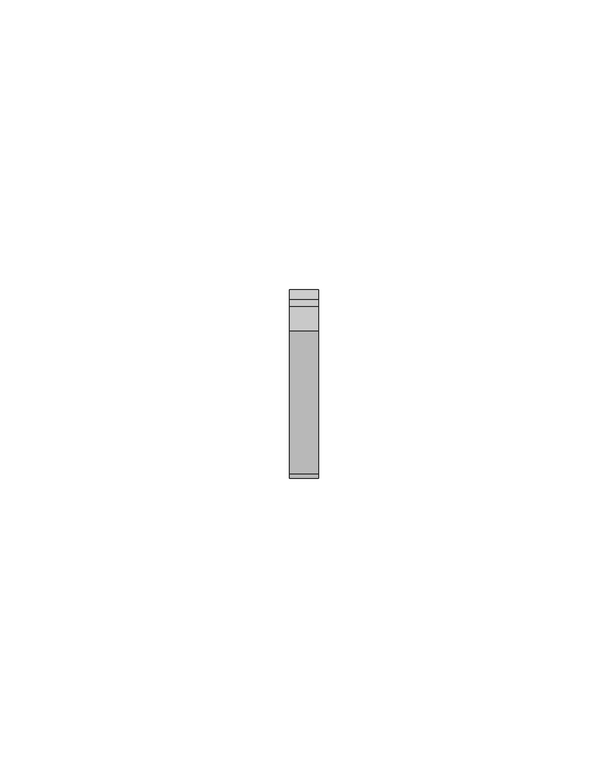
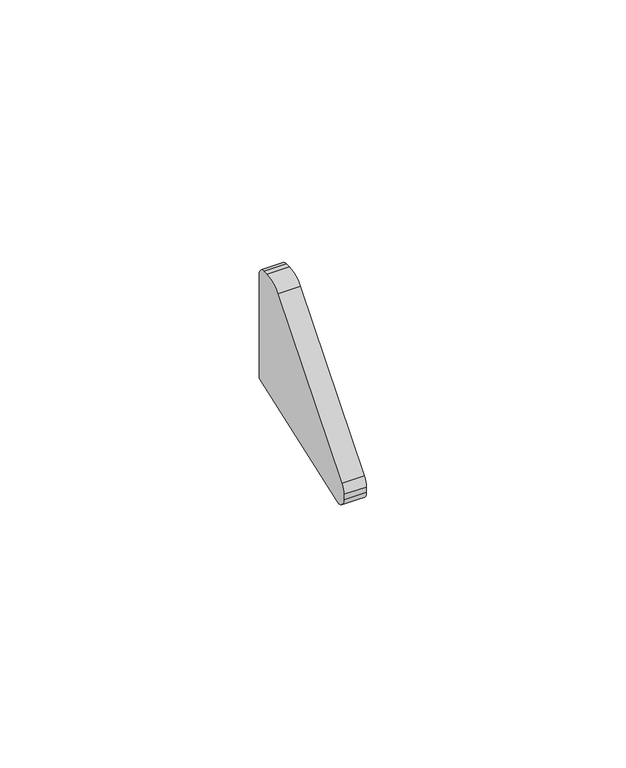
"""IFC4 building model written with IfcOpenShell, lengths in millimetres: proxy geometry, Odbojnik przyścienny K102 : Odbojnik przyścienny K102."""

from ifc_helpers import new_model, si_unit, point, frame, frame_2d, origin, place, context, project, spatial, polyline, circle_curve, trimmed, segment, composite_curve, outline, extrude, source, transform, mapped, element, save


def generic_models_2d19b20a(model_context):
    return source(origin(), model_context, "Body", "SweptSolid", [
        extrude(outline(composite_curve([segment(trimmed(circle_curve(frame_2d((-47.6049078, -18.1149957)), 3.4107347), [point((-51.0156424, -18.1149957))], [point((-50.2261979, -15.9328067))], False, "CARTESIAN"), True, "CONTINUOUS"), segment(polyline([(-50.2261979, -15.9328067), (-25.5578471, 13.6993204)]), True, "CONTINUOUS"), segment(trimmed(circle_curve(frame_2d((-21.3090654, 10.1622663)), 5.5283721), [point((-25.5578471, 13.6993204))], [point((-21.3090654, 15.6906384))], False, "CARTESIAN"), True, "CONTINUOUS"), segment(polyline([(-21.3090654, 15.6906384), (-20.050721, 15.6906384)]), True, "CONTINUOUS"), segment(trimmed(circle_curve(frame_2d((-20.050721, 14.0520633)), 1.6385751), [point((-20.050721, 15.6906384))], [point((-18.4121459, 14.0520633))], False, "CARTESIAN"), True, "CONTINUOUS"), segment(polyline([(-18.4121459, 14.0520633), (-18.4121459, -10.5790309), (-48.2523394, -21.3221616)]), True, "CONTINUOUS"), segment(trimmed(circle_curve(frame_2d((-48.9515319, -19.3800797)), 2.0641105), [point((-48.2523394, -21.3221616))], [point((-51.0156424, -19.3800797))], False, "CARTESIAN"), True, "CONTINUOUS"), segment(polyline([(-51.0156424, -19.3800797), (-51.0156424, -18.1149957)]), True, "CONTINUOUS")], self_intersect=False)), frame((-2.5, 0.0, 0.0), z_axis=(1.0, 0.0, 0.0), x_axis=(0.0, 1.0, 0.0)), (0.0, 0.0, 1.0), 5.0),
    ])


if __name__ == "__main__":
    model = new_model("IFC4")
    model_context = context("Model", 3, world=origin())
    ifc_project = project(units=[si_unit("LENGTHUNIT", "METRE", prefix="MILLI")], contexts=[model_context])
    site = spatial("IfcSite", under=ifc_project)
    building = spatial("IfcBuilding", under=site)
    placement = place(None, origin())
    generic_models_shape = generic_models_2d19b20a(model_context)
    element("IfcBuildingElementProxy", 1, Name="Odbojnik przyścienny K102 : Odbojnik przyścienny K102", ObjectType="Odbojnik przyścienny K102 : Odbojnik przyścienny K102", at=placement, inside=building, context=model_context, shape_type="MappedRepresentation", body=[
        mapped(generic_models_shape, transform((0.0, 0.0, 0.0), x_axis=(1.0, 0.0, 0.0), y_axis=(0.0, 1.0, 0.0), z_axis=(0.0, 0.0, 1.0))),
    ])
    save(model, "model.ifc")
